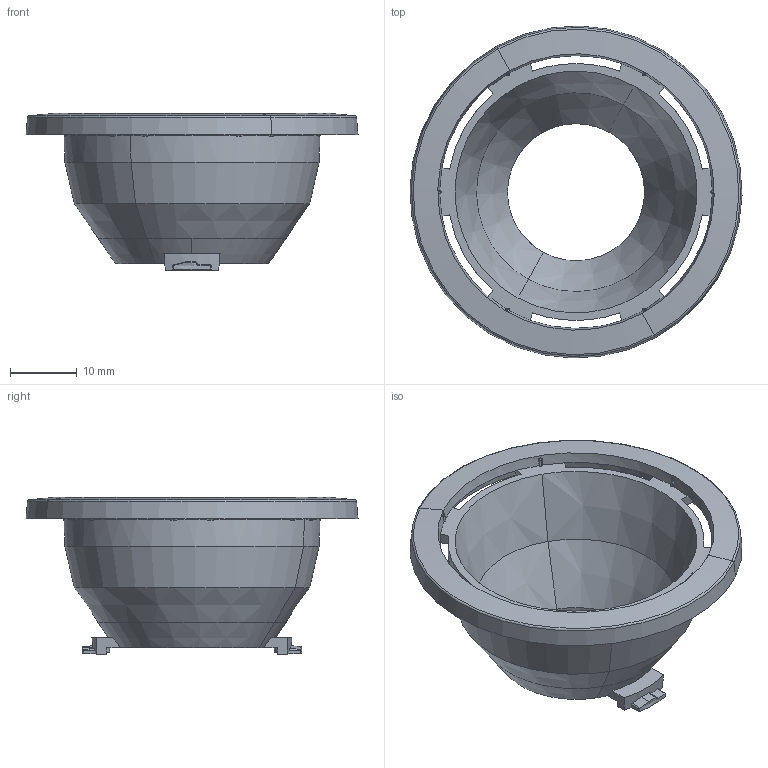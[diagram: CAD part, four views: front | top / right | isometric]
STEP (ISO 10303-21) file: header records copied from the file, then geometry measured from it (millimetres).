
FILE_DESCRIPTION(('CATIA V5 STEP Exchange'),'2;1');
FILE_NAME('D:\Mirella\C15560_MIRELLA-G2-W_Mechanical_model.stp','2017-05-11T12:35:40+00:00',('none'),('none'),'CATIA Version 5-6 Release 2013 SP4','CATIA V5 STEP AP203','none');
FILE_SCHEMA(('CONFIG_CONTROL_DESIGN'));
Length unit declared in the file: millimetre
Products named in the file (1): F15560
Bounding box: 49.89 x 49.89 x 23.61 mm (x, y, z)
Volume: 6945.1 mm3; surface area: 7218.9 mm2
Topology: 1 solids, 1 shells, 369 faces, 1007 edges, 585 vertices
Faces by surface type: cone 75, plane 63, torus 57, sphere 50, revolution 46, cylinder 44, bspline 34
Entity records: 13884 total; most frequent: CARTESIAN_POINT 5871, ORIENTED_EDGE 1926, DIRECTION 1145, EDGE_CURVE 963, AXIS2_PLACEMENT_3D 639, VERTEX_POINT 585, B_SPLINE_CURVE_WITH_KNOTS 454, EDGE_LOOP 372
